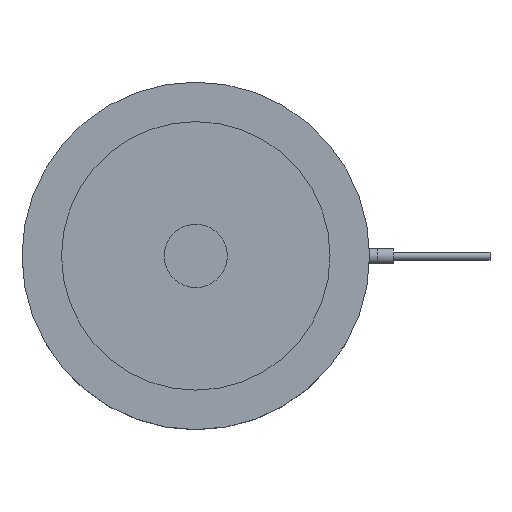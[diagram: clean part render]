
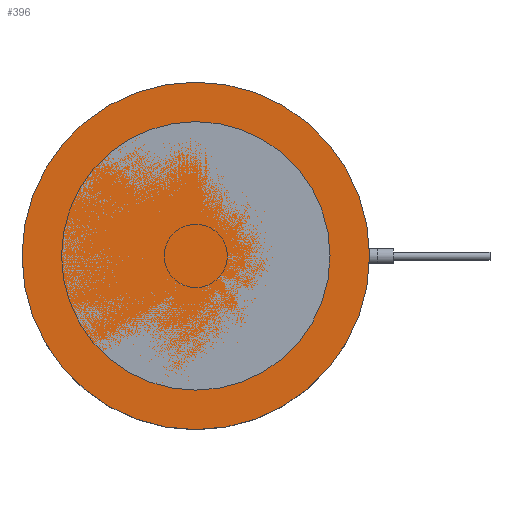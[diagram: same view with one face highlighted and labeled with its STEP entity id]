
A CAD part, top view. The second image highlights one B-rep face of the part: STEP entity #396.
In plain terms, the highlighted planar face has unit normal (0, 0, 1).
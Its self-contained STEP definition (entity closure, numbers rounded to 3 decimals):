
#396=ADVANCED_FACE('',(#496),#437,.F.);
#437=PLANE('',#1344);
#496=FACE_OUTER_BOUND('',#637,.T.);
#637=EDGE_LOOP('',(#873));
#873=ORIENTED_EDGE('',*,*,#1096,.F.);
#977=VERTEX_POINT('',#2173);
#1096=EDGE_CURVE('',#977,#977,#1178,.T.);
#1178=CIRCLE('',#1343,22.);
#1343=AXIS2_PLACEMENT_3D('',#2172,#1702,#1703);
#1344=AXIS2_PLACEMENT_3D('',#2174,#1704,#1705);
#1702=DIRECTION('',(0.,0.,-1.));
#1703=DIRECTION('',(-1.,0.,0.));
#1704=DIRECTION('',(0.,0.,-1.));
#1705=DIRECTION('',(-1.,0.,0.));
#2172=CARTESIAN_POINT('',(0.,0.,0.));
#2173=CARTESIAN_POINT('',(-22.,0.,0.));
#2174=CARTESIAN_POINT('',(0.,0.,0.));
